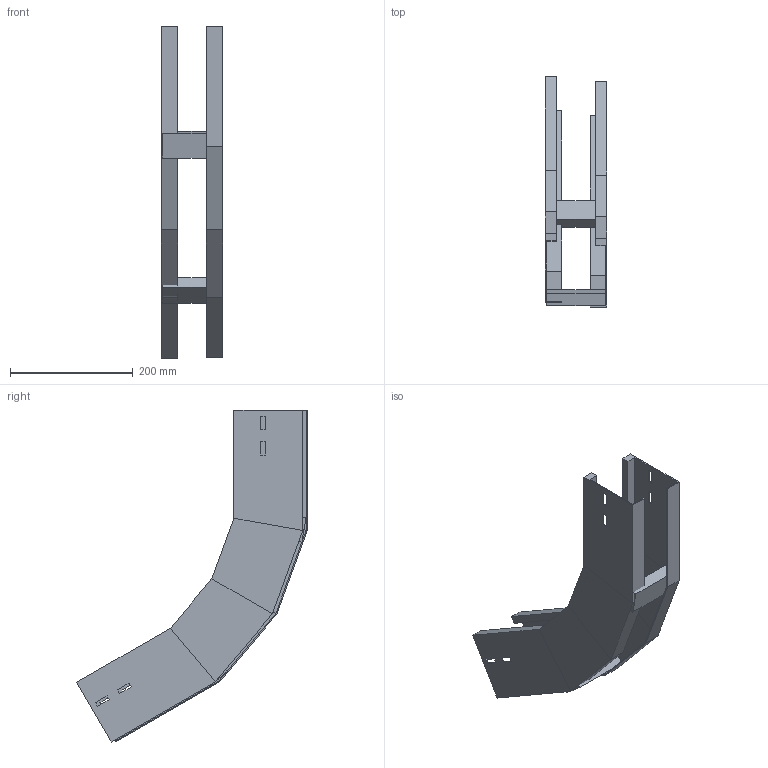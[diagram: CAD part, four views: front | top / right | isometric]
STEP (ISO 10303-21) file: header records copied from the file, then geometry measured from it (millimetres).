
FILE_DESCRIPTION (( 'STEP AP214' ), '1' );
FILE_NAME ('A2X40B3J100XX.step', '2025-04-02T09:53:46', ( '' ), ( '' ), 'SwSTEP 2.0', 'SolidWorks 2023', '' );
FILE_SCHEMA (( 'AUTOMOTIVE_DESIGN' ));
Length unit declared in the file: millimetre
Products named in the file (3): TRAVERSINO_100; LONGH.SALITA_60°_H112.5_R300; A2X40B3J100XX
Assembly tree (4 placements, depth 2):
  A2X40B3J100XX
    LONGH.SALITA_60°_H112.5_R300  x2
    TRAVERSINO_100  x2
Bounding box: 100 x 376.69 x 542.06 mm (x, y, z)
Volume: 720826.1 mm3; surface area: 417057.4 mm2
Topology: 4 solids, 4 shells, 112 faces, 264 edges, 160 vertices
Faces by surface type: plane 112
Entity records: 1664 total; most frequent: CARTESIAN_POINT 275, ORIENTED_EDGE 264, DIRECTION 258, LINE 132, EDGE_CURVE 132, VECTOR 132, VERTEX_POINT 80, EDGE_LOOP 64
